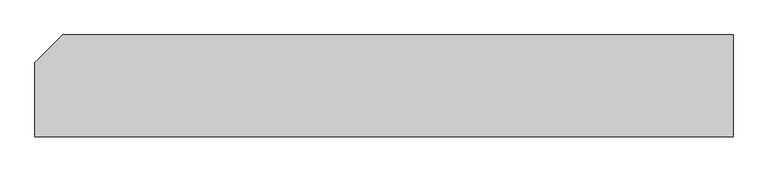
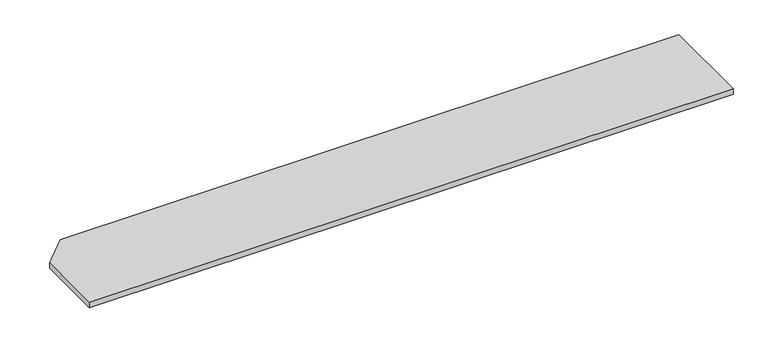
"""IFC4 building model written with IfcOpenShell, lengths in millimetres: furniture geometry, BIMHealth-Worktop_Corner_Chamfered-LOD2A-v1 : BIMHealth-Worktop_Corner_Chamfered-LOD2A-v1."""

from ifc_helpers import new_model, si_unit, frame, origin, place, context, project, spatial, polyline, outline, extrude, source, transform, mapped, element, save


def furniture_9dfdc119(model_context):
    return source(origin(), model_context, "Body", "SweptSolid", [
        extrude(outline(polyline([(3286.9077617, 24.1168748), (3286.9077617, -455.8831252), (0.0, -455.8831252), (0.0, -105.8831252), (130.0, 24.1168748), (3286.9077617, 24.1168748)])), frame((0.0, 0.0, 720.0), z_axis=(0.0, 0.0, 1.0), x_axis=(1.0, 0.0, 0.0)), (0.0, 0.0, 1.0), 30.0),
    ])


if __name__ == "__main__":
    model = new_model("IFC4")
    model_context = context("Model", 3, world=origin())
    ifc_project = project(units=[si_unit("LENGTHUNIT", "METRE", prefix="MILLI")], contexts=[model_context])
    site = spatial("IfcSite", under=ifc_project)
    building = spatial("IfcBuilding", under=site)
    placement = place(None, origin())
    furniture_shape = furniture_9dfdc119(model_context)
    element("IfcFurniture", 1, ObjectType="BIMHealth-Worktop_Corner_Chamfered-LOD2A-v1 : BIMHealth-Worktop_Corner_Chamfered-LOD2A-v1", at=placement, inside=building, context=model_context, shape_type="MappedRepresentation", body=[
        mapped(furniture_shape, transform((0.0, 0.0, 0.0), x_axis=(1.0, 0.0, 0.0), y_axis=(0.0, 1.0, 0.0), z_axis=(0.0, 0.0, 1.0))),
    ])
    save(model, "model.ifc")
